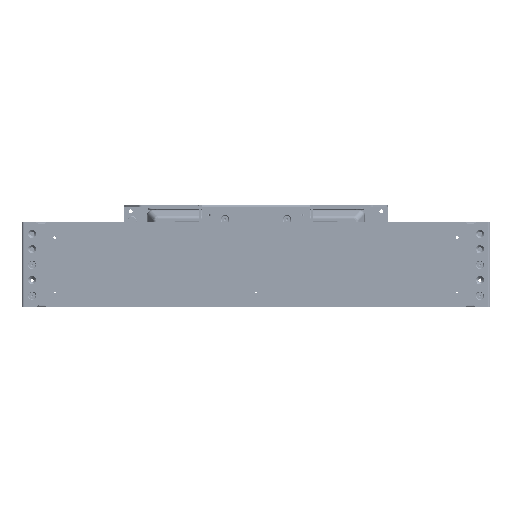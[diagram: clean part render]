
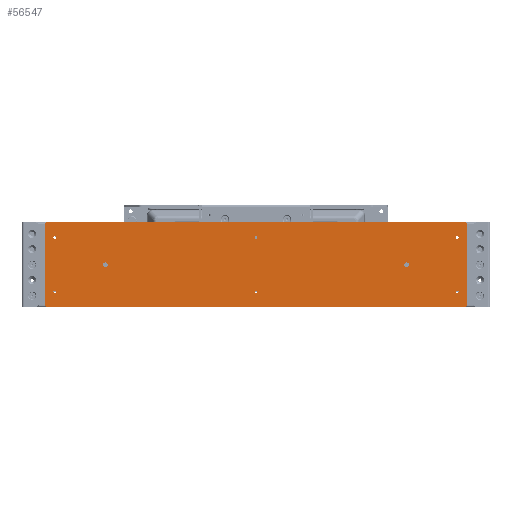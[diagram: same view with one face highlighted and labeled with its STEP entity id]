
A CAD part, top view. The second image highlights one B-rep face of the part: STEP entity #56547.
In plain terms, the highlighted planar face has unit normal (0, 0, 1) as drawn and (0, -1, 0) by its records, which use the part's own axes.
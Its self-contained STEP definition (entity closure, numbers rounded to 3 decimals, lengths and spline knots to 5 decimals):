
#4189=CIRCLE('',#64981,0.00225);
#4192=CIRCLE('',#64986,0.00225);
#4195=CIRCLE('',#64991,0.00225);
#4198=CIRCLE('',#64996,0.00225);
#4201=CIRCLE('',#65001,0.00225);
#4204=CIRCLE('',#65006,0.00225);
#4206=CIRCLE('',#65009,0.00396);
#4208=CIRCLE('',#65012,0.00396);
#4209=CIRCLE('',#65014,0.00318);
#4210=CIRCLE('',#65015,0.00318);
#4211=CIRCLE('',#65016,0.00318);
#4212=CIRCLE('',#65017,0.00318);
#9739=LINE('',#100349,#14731);
#9740=LINE('',#100354,#14732);
#9741=LINE('',#100358,#14733);
#9742=LINE('',#100362,#14734);
#14731=VECTOR('',#80663,1.);
#14732=VECTOR('',#80666,1.);
#14733=VECTOR('',#80669,1.);
#14734=VECTOR('',#80672,1.);
#29882=ORIENTED_EDGE('',*,*,#37851,.F.);
#29883=ORIENTED_EDGE('',*,*,#37852,.T.);
#29884=ORIENTED_EDGE('',*,*,#37853,.F.);
#29885=ORIENTED_EDGE('',*,*,#37854,.T.);
#29886=ORIENTED_EDGE('',*,*,#37855,.T.);
#29887=ORIENTED_EDGE('',*,*,#37856,.T.);
#29888=ORIENTED_EDGE('',*,*,#37857,.T.);
#29889=ORIENTED_EDGE('',*,*,#37858,.T.);
#29890=ORIENTED_EDGE('',*,*,#37850,.F.);
#29891=ORIENTED_EDGE('',*,*,#37848,.F.);
#29892=ORIENTED_EDGE('',*,*,#37846,.F.);
#29893=ORIENTED_EDGE('',*,*,#37843,.F.);
#29894=ORIENTED_EDGE('',*,*,#37840,.F.);
#29895=ORIENTED_EDGE('',*,*,#37837,.F.);
#29896=ORIENTED_EDGE('',*,*,#37834,.F.);
#29897=ORIENTED_EDGE('',*,*,#37831,.F.);
#37831=EDGE_CURVE('',#43062,#43062,#4189,.T.);
#37834=EDGE_CURVE('',#43065,#43065,#4192,.T.);
#37837=EDGE_CURVE('',#43068,#43068,#4195,.T.);
#37840=EDGE_CURVE('',#43071,#43071,#4198,.T.);
#37843=EDGE_CURVE('',#43074,#43074,#4201,.T.);
#37846=EDGE_CURVE('',#43077,#43077,#4204,.T.);
#37848=EDGE_CURVE('',#43079,#43079,#4206,.T.);
#37850=EDGE_CURVE('',#43081,#43081,#4208,.T.);
#37851=EDGE_CURVE('',#43082,#43083,#9739,.T.);
#37852=EDGE_CURVE('',#43082,#43084,#4209,.T.);
#37853=EDGE_CURVE('',#43085,#43084,#9740,.T.);
#37854=EDGE_CURVE('',#43085,#43086,#4210,.T.);
#37855=EDGE_CURVE('',#43086,#43087,#9741,.T.);
#37856=EDGE_CURVE('',#43087,#43088,#4211,.T.);
#37857=EDGE_CURVE('',#43088,#43089,#9742,.T.);
#37858=EDGE_CURVE('',#43089,#43083,#4212,.T.);
#43062=VERTEX_POINT('',#100297);
#43065=VERTEX_POINT('',#100305);
#43068=VERTEX_POINT('',#100313);
#43071=VERTEX_POINT('',#100321);
#43074=VERTEX_POINT('',#100329);
#43077=VERTEX_POINT('',#100337);
#43079=VERTEX_POINT('',#100342);
#43081=VERTEX_POINT('',#100347);
#43082=VERTEX_POINT('',#100350);
#43083=VERTEX_POINT('',#100351);
#43084=VERTEX_POINT('',#100353);
#43085=VERTEX_POINT('',#100355);
#43086=VERTEX_POINT('',#100357);
#43087=VERTEX_POINT('',#100359);
#43088=VERTEX_POINT('',#100361);
#43089=VERTEX_POINT('',#100363);
#47572=EDGE_LOOP('',(#29882,#29883,#29884,#29885,#29886,#29887,#29888,#29889));
#47573=EDGE_LOOP('',(#29890));
#47574=EDGE_LOOP('',(#29891));
#47575=EDGE_LOOP('',(#29892));
#47576=EDGE_LOOP('',(#29893));
#47577=EDGE_LOOP('',(#29894));
#47578=EDGE_LOOP('',(#29895));
#47579=EDGE_LOOP('',(#29896));
#47580=EDGE_LOOP('',(#29897));
#51626=FACE_BOUND('',#47572,.T.);
#51627=FACE_BOUND('',#47573,.T.);
#51628=FACE_BOUND('',#47574,.T.);
#51629=FACE_BOUND('',#47575,.T.);
#51630=FACE_BOUND('',#47576,.T.);
#51631=FACE_BOUND('',#47577,.T.);
#51632=FACE_BOUND('',#47578,.T.);
#51633=FACE_BOUND('',#47579,.T.);
#51634=FACE_BOUND('',#47580,.T.);
#53513=PLANE('',#65013);
#56547=ADVANCED_FACE('',(#51626,#51627,#51628,#51629,#51630,#51631,#51632,
#51633,#51634),#53513,.T.);
#64981=AXIS2_PLACEMENT_3D('',#100296,#80597,#80598);
#64986=AXIS2_PLACEMENT_3D('',#100304,#80607,#80608);
#64991=AXIS2_PLACEMENT_3D('',#100312,#80617,#80618);
#64996=AXIS2_PLACEMENT_3D('',#100320,#80627,#80628);
#65001=AXIS2_PLACEMENT_3D('',#100328,#80637,#80638);
#65006=AXIS2_PLACEMENT_3D('',#100336,#80647,#80648);
#65009=AXIS2_PLACEMENT_3D('',#100341,#80653,#80654);
#65012=AXIS2_PLACEMENT_3D('',#100346,#80659,#80660);
#65013=AXIS2_PLACEMENT_3D('',#100348,#80661,#80662);
#65014=AXIS2_PLACEMENT_3D('',#100352,#80664,#80665);
#65015=AXIS2_PLACEMENT_3D('',#100356,#80667,#80668);
#65016=AXIS2_PLACEMENT_3D('',#100360,#80670,#80671);
#65017=AXIS2_PLACEMENT_3D('',#100364,#80673,#80674);
#80597=DIRECTION('',(0.,-1.,0.));
#80598=DIRECTION('',(1.,0.,0.));
#80607=DIRECTION('',(0.,-1.,0.));
#80608=DIRECTION('',(1.,0.,0.));
#80617=DIRECTION('',(0.,-1.,0.));
#80618=DIRECTION('',(1.,0.,0.));
#80627=DIRECTION('',(0.,-1.,0.));
#80628=DIRECTION('',(1.,0.,0.));
#80637=DIRECTION('',(0.,-1.,0.));
#80638=DIRECTION('',(1.,0.,0.));
#80647=DIRECTION('',(0.,-1.,0.));
#80648=DIRECTION('',(1.,0.,0.));
#80653=DIRECTION('',(0.,-1.,0.));
#80654=DIRECTION('',(1.,0.,0.));
#80659=DIRECTION('',(0.,-1.,0.));
#80660=DIRECTION('',(1.,0.,0.));
#80661=DIRECTION('',(0.,-1.,0.));
#80662=DIRECTION('',(1.,0.,0.));
#80663=DIRECTION('',(0.,0.,1.));
#80664=DIRECTION('',(0.,-1.,0.));
#80665=DIRECTION('',(1.,0.,0.));
#80666=DIRECTION('',(-1.,0.,0.));
#80667=DIRECTION('',(0.,-1.,0.));
#80668=DIRECTION('',(1.,0.,0.));
#80669=DIRECTION('',(0.,0.,1.));
#80670=DIRECTION('',(0.,-1.,0.));
#80671=DIRECTION('',(1.,0.,0.));
#80672=DIRECTION('',(-1.,0.,0.));
#80673=DIRECTION('',(0.,-1.,0.));
#80674=DIRECTION('',(1.,0.,0.));
#100296=CARTESIAN_POINT('',(0.62548,-0.76109,-0.05766));
#100297=CARTESIAN_POINT('',(0.62772,-0.76109,-0.05766));
#100304=CARTESIAN_POINT('',(0.29528,-0.76109,-0.05766));
#100305=CARTESIAN_POINT('',(0.29752,-0.76109,-0.05766));
#100312=CARTESIAN_POINT('',(0.29528,-0.76109,-0.14656));
#100313=CARTESIAN_POINT('',(0.29752,-0.76109,-0.14656));
#100320=CARTESIAN_POINT('',(-0.03493,-0.76109,-0.05766));
#100321=CARTESIAN_POINT('',(-0.03268,-0.76109,-0.05766));
#100328=CARTESIAN_POINT('',(0.62548,-0.76109,-0.14656));
#100329=CARTESIAN_POINT('',(0.62772,-0.76109,-0.14656));
#100336=CARTESIAN_POINT('',(-0.03493,-0.76109,-0.14656));
#100337=CARTESIAN_POINT('',(-0.03268,-0.76109,-0.14656));
#100341=CARTESIAN_POINT('',(0.54242,-0.76109,-0.10211));
#100342=CARTESIAN_POINT('',(0.54638,-0.76109,-0.10211));
#100346=CARTESIAN_POINT('',(0.04813,-0.76109,-0.10211));
#100347=CARTESIAN_POINT('',(0.0521,-0.76109,-0.10211));
#100348=CARTESIAN_POINT('',(0.29528,-0.76109,-0.10211));
#100349=CARTESIAN_POINT('',(-0.0508,-0.76109,-0.10211));
#100350=CARTESIAN_POINT('',(-0.0508,-0.76109,-0.16878));
#100351=CARTESIAN_POINT('',(-0.0508,-0.76109,-0.03543));
#100352=CARTESIAN_POINT('',(-0.04763,-0.76109,-0.16878));
#100353=CARTESIAN_POINT('',(-0.04763,-0.76109,-0.17196));
#100354=CARTESIAN_POINT('',(0.29528,-0.76109,-0.17196));
#100355=CARTESIAN_POINT('',(0.63818,-0.76109,-0.17196));
#100356=CARTESIAN_POINT('',(0.63818,-0.76109,-0.16878));
#100357=CARTESIAN_POINT('',(0.64135,-0.76109,-0.16878));
#100358=CARTESIAN_POINT('',(0.64135,-0.76109,-0.10211));
#100359=CARTESIAN_POINT('',(0.64135,-0.76109,-0.03543));
#100360=CARTESIAN_POINT('',(0.63818,-0.76109,-0.03543));
#100361=CARTESIAN_POINT('',(0.63818,-0.76109,-0.03226));
#100362=CARTESIAN_POINT('',(0.29528,-0.76109,-0.03226));
#100363=CARTESIAN_POINT('',(-0.04763,-0.76109,-0.03226));
#100364=CARTESIAN_POINT('',(-0.04763,-0.76109,-0.03543));
